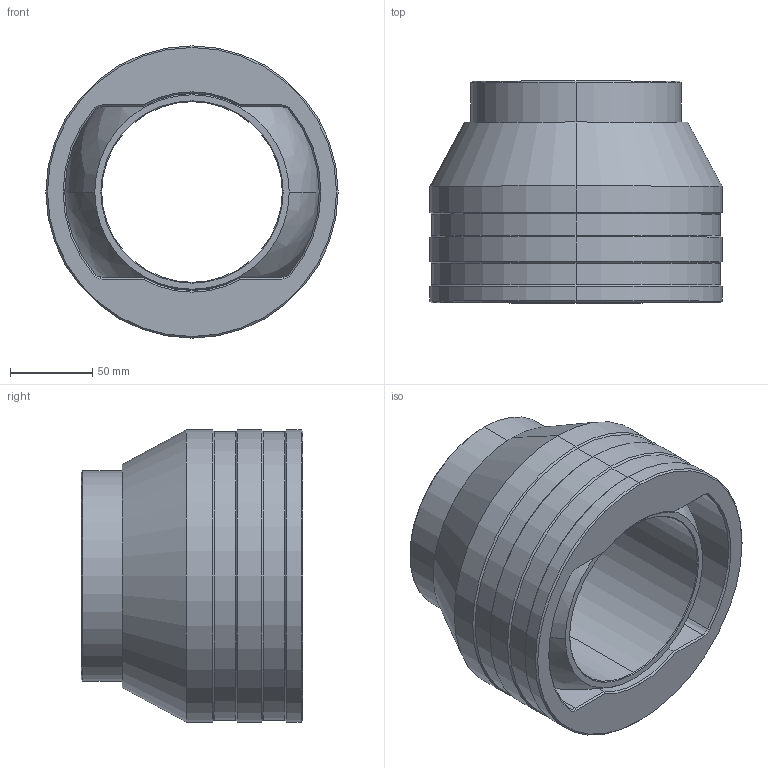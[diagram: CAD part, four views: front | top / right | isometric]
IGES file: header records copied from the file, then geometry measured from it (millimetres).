
Start section: 3D InterOp IGES (Version 20 0 1), Spatial Corp. Copyright (c) 1999-2007.
Global section: file name: 10.11.11.igs; native system: Spatial Corp.; preprocessor: 3D InterOp GENERIC/IGES 3.0; author: Noname; organization: Noname; date: 20111110.163704; units: metre
Bounding box: 178 x 135 x 178 mm (x, y, z)
Surface area: 232967.2 mm2 (no closed solid volume)
Topology: 0 solids, 0 shells, 78 faces, 1842 edges, 3336 vertices
Faces by surface type: revolution 64, extrusion 14
